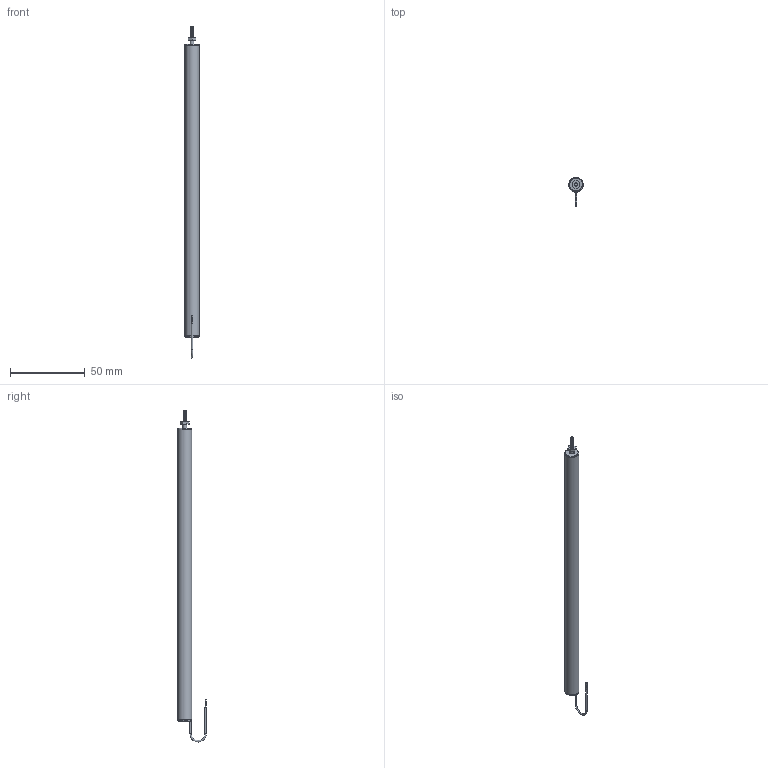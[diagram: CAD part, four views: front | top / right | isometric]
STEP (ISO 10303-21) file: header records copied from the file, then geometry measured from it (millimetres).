
FILE_DESCRIPTION(/* description */ (''),/* implementation_level */ '2;1');
FILE_NAME(/* name */ 'ILPS-9.5Z-150-A-00-YY-S Assembly (Wrapped).stp',/* time_stamp */ '2024-06-12T12:54:00-04:00',/* author */ ('Justin'),/* organization */ (''),/* preprocessor_version */ 'ST-DEVELOPER v20',/* originating_system */ 'Autodesk Inventor 2025',/* authorisation */ '');
FILE_SCHEMA (('AUTOMOTIVE_DESIGN { 1 0 10303 214 3 1 1 }'));
Length unit declared in the file: inch
Products named in the file (5): 3020-0020-XX Assembly_SW; 3020-0020-XX Assembly_Simplify_1; 3020-0020-XX Shaft_SW; Wire; BS 4183 - M2.5
Assembly tree (4 placements, depth 2):
  3020-0020-XX Assembly_SW
    3020-0020-XX Assembly_Simplify_1
    3020-0020-XX Shaft_SW
    Wire
    BS 4183 - M2.5
Bounding box: 9.53 x 19.15 x 222.19 mm (x, y, z)
Volume: 1788.5 mm3; surface area: 17200.9 mm2
Topology: 8 solids, 8 shells, 100 faces, 209 edges, 135 vertices
Faces by surface type: plane 54, cylinder 35, torus 4, cone 4, bspline 3
Full cylindrical faces by diameter (mm): 0.203 x20, 1 x4, 2.013 x1, 2.438 x1, 2.667 x1, 3.175 x3, 9.398 x1, 9.525 x2
Entity records: 4844 total; most frequent: CARTESIAN_POINT 2275, DIRECTION 543, ORIENTED_EDGE 418, AXIS2_PLACEMENT_3D 240, EDGE_CURVE 209, VERTEX_POINT 135, CIRCLE 134, EDGE_LOOP 120
